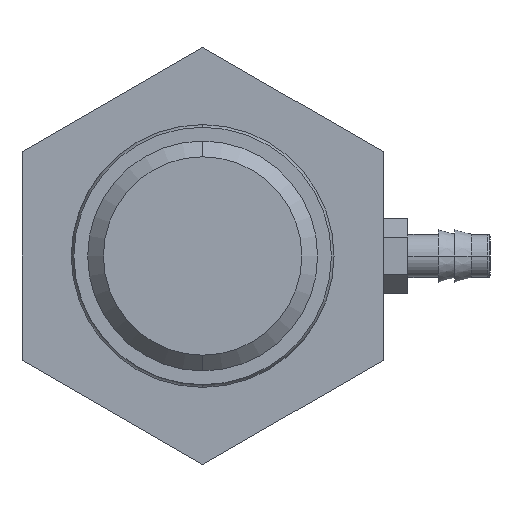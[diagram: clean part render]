
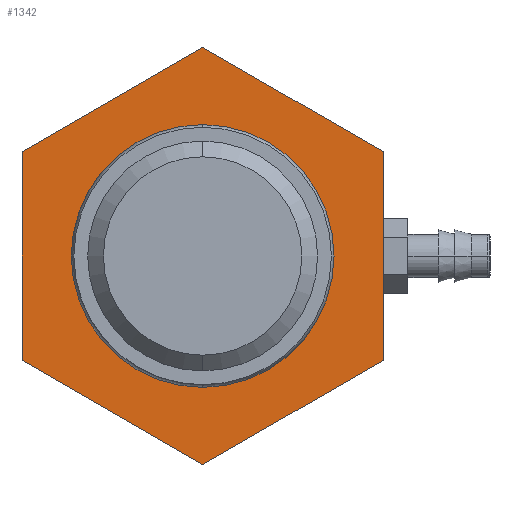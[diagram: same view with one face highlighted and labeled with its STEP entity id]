
A CAD part, left-side view. The second image highlights one B-rep face of the part: STEP entity #1342.
In plain terms, the highlighted planar face has unit normal (-1, 0, 0).
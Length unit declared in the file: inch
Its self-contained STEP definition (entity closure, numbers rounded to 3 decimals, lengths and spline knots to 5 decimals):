
#977=CARTESIAN_POINT('',(-2.75,0.,0.));
#978=DIRECTION('',(1.,0.,0.));
#979=DIRECTION('',(0.,0.,1.));
#980=AXIS2_PLACEMENT_3D('',#977,#978,#979);
#982=CARTESIAN_POINT('',(-2.75,0.,0.));
#983=DIRECTION('',(1.,0.,0.));
#984=DIRECTION('',(0.,0.,-1.));
#985=AXIS2_PLACEMENT_3D('',#982,#983,#984);
#987=DIRECTION('',(0.,-0.866,-0.5));
#988=VECTOR('',#987,0.79386);
#989=CARTESIAN_POINT('',(-2.75,0.6875,-0.39693));
#990=LINE('',#989,#988);
#991=DIRECTION('',(0.,0.866,-0.5));
#992=VECTOR('',#991,0.79386);
#993=CARTESIAN_POINT('',(-2.75,0.,0.79386));
#994=LINE('',#993,#992);
#995=DIRECTION('',(0.,0.866,0.5));
#996=VECTOR('',#995,0.79386);
#997=CARTESIAN_POINT('',(-2.75,-0.6875,0.39693));
#998=LINE('',#997,#996);
#999=DIRECTION('',(0.,-0.866,0.5));
#1000=VECTOR('',#999,0.79386);
#1001=CARTESIAN_POINT('',(-2.75,0.,-0.79386));
#1002=LINE('',#1001,#1000);
#1031=DIRECTION('',(0.,0.,-1.));
#1032=VECTOR('',#1031,0.79386);
#1033=CARTESIAN_POINT('',(-2.75,-0.6875,0.39693));
#1034=LINE('',#1033,#1032);
#1051=DIRECTION('',(0.,0.,1.));
#1052=VECTOR('',#1051,0.79386);
#1053=CARTESIAN_POINT('',(-2.75,0.6875,-0.39693));
#1054=LINE('',#1053,#1052);
#1065=CARTESIAN_POINT('',(-2.75,-0.6875,-0.39693));
#1066=VERTEX_POINT('',#1065);
#1067=CARTESIAN_POINT('',(-2.75,0.,-0.79386));
#1068=VERTEX_POINT('',#1067);
#1071=CARTESIAN_POINT('',(-2.75,-0.6875,0.39693));
#1072=VERTEX_POINT('',#1071);
#1077=CARTESIAN_POINT('',(-2.75,0.,0.79386));
#1078=VERTEX_POINT('',#1077);
#1079=CARTESIAN_POINT('',(-2.75,0.6875,-0.39693));
#1080=VERTEX_POINT('',#1079);
#1081=CARTESIAN_POINT('',(-2.75,0.6875,0.39693));
#1082=VERTEX_POINT('',#1081);
#1111=CARTESIAN_POINT('',(-2.75,0.,-0.413));
#1113=VERTEX_POINT('',#1111);
#1115=CARTESIAN_POINT('',(-2.75,0.,0.413));
#1117=VERTEX_POINT('',#1115);
#1319=CARTESIAN_POINT('',(-2.75,0.,0.));
#1320=DIRECTION('',(1.,0.,0.));
#1321=DIRECTION('',(0.,0.,-1.));
#1322=AXIS2_PLACEMENT_3D('',#1319,#1320,#1321);
#1323=PLANE('',#1322);
#1325=ORIENTED_EDGE('',*,*,#1324,.F.);
#1327=ORIENTED_EDGE('',*,*,#1326,.T.);
#1329=ORIENTED_EDGE('',*,*,#1328,.F.);
#1331=ORIENTED_EDGE('',*,*,#1330,.F.);
#1333=ORIENTED_EDGE('',*,*,#1332,.T.);
#1335=ORIENTED_EDGE('',*,*,#1334,.F.);
#1336=EDGE_LOOP('',(#1325,#1327,#1329,#1331,#1333,#1335));
#1337=FACE_OUTER_BOUND('',#1336,.F.);
#1338=ORIENTED_EDGE('',*,*,#1313,.F.);
#1339=ORIENTED_EDGE('',*,*,#1299,.F.);
#1340=EDGE_LOOP('',(#1338,#1339));
#1341=FACE_BOUND('',#1340,.F.);
#981=CIRCLE('',#980,0.413);
#986=CIRCLE('',#985,0.413);
#1299=EDGE_CURVE('',#1113,#1117,#986,.T.);
#1313=EDGE_CURVE('',#1117,#1113,#981,.T.);
#1324=EDGE_CURVE('',#1080,#1068,#990,.T.);
#1326=EDGE_CURVE('',#1080,#1082,#1054,.T.);
#1328=EDGE_CURVE('',#1078,#1082,#994,.T.);
#1330=EDGE_CURVE('',#1072,#1078,#998,.T.);
#1332=EDGE_CURVE('',#1072,#1066,#1034,.T.);
#1334=EDGE_CURVE('',#1068,#1066,#1002,.T.);
#1342=ADVANCED_FACE('',(#1337,#1341),#1323,.F.);
